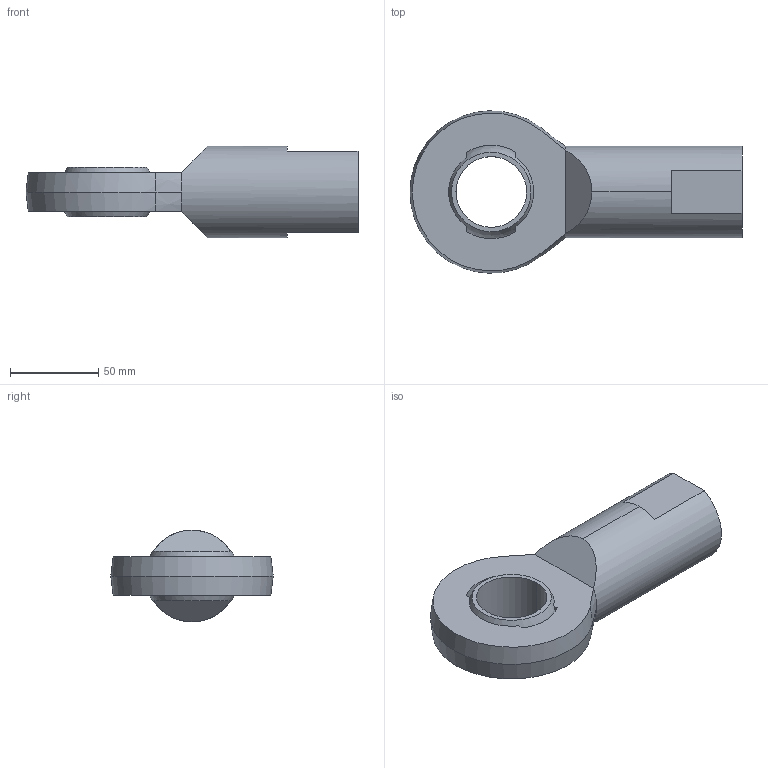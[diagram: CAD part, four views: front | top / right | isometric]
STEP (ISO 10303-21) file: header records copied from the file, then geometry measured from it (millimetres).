
FILE_DESCRIPTION (( 'STEP AP203' ), '1' );
FILE_NAME ('65880.W0141.step', '2014-02-06T18:36:43', ( 'User' ), ( '' ), 'SwSTEP 2.0', 'SolidWorks 2009', '' );
FILE_SCHEMA (( 'CONFIG_CONTROL_DESIGN' ));
Length unit declared in the file: millimetre
Products named in the file (3): 65880.W0141; Part1_65880.W0141; Part2_65880.W0141
Assembly tree (2 placements, depth 2):
  65880.W0141
    Part2_65880.W0141
    Part1_65880.W0141
Bounding box: 188 x 91.93 x 52 mm (x, y, z)
Volume: 241000.6 mm3; surface area: 52924.4 mm2
Topology: 2 solids, 2 shells, 45 faces, 108 edges, 67 vertices
Faces by surface type: plane 20, cylinder 10, sphere 8, cone 7
Entity records: 1624 total; most frequent: CARTESIAN_POINT 253, DIRECTION 253, ORIENTED_EDGE 208, AXIS2_PLACEMENT_3D 107, EDGE_CURVE 104, VERTEX_POINT 67, CIRCLE 57, EDGE_LOOP 53
